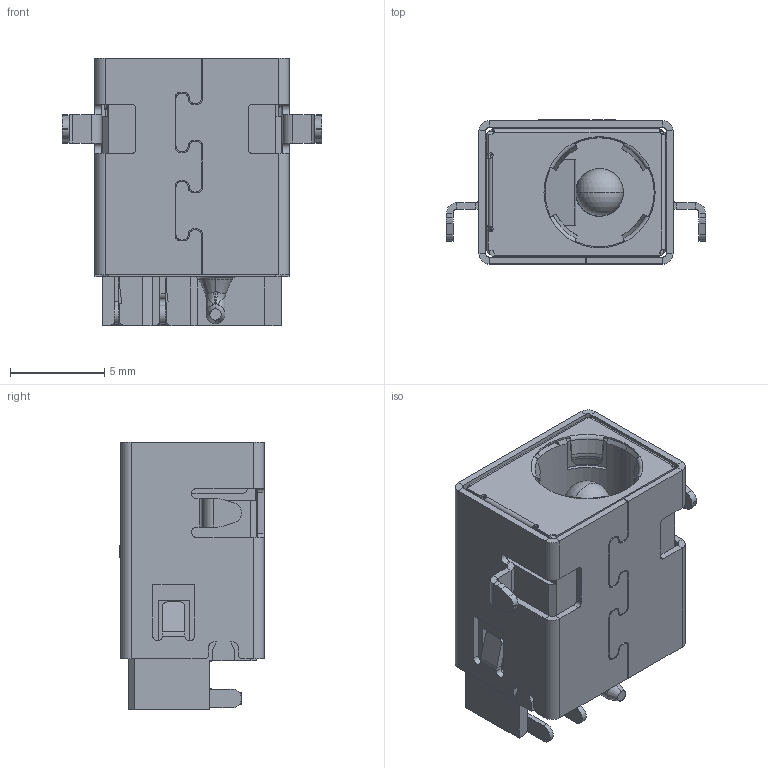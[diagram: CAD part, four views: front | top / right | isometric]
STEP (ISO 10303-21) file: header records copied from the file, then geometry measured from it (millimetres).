
FILE_DESCRIPTION (( 'STEP AP203' ), '1' );
FILE_NAME ('DC-S019A-D025-10A.STEP', '2023-08-29T07:34:03', ( '' ), ( '' ), 'SwSTEP 2.0', 'SolidWorks 2023', '' );
FILE_SCHEMA (( 'CONFIG_CONTROL_DESIGN' ));
Length unit declared in the file: millimetre
Products named in the file (1): DC-S019A-D025-10A
Bounding box: 13.75 x 7.65 x 14.2 mm (x, y, z)
Volume: 593.7 mm3; surface area: 2108 mm2
Topology: 18 solids, 18 shells, 1154 faces, 3080 edges, 1956 vertices
Faces by surface type: plane 712, cylinder 226, bspline 107, cone 60, torus 47, sphere 2
Entity records: 41536 total; most frequent: CARTESIAN_POINT 13296, ORIENTED_EDGE 6152, DIRECTION 5440, EDGE_CURVE 3076, VECTOR 2048, LINE 2048, VERTEX_POINT 1954, AXIS2_PLACEMENT_3D 1696
